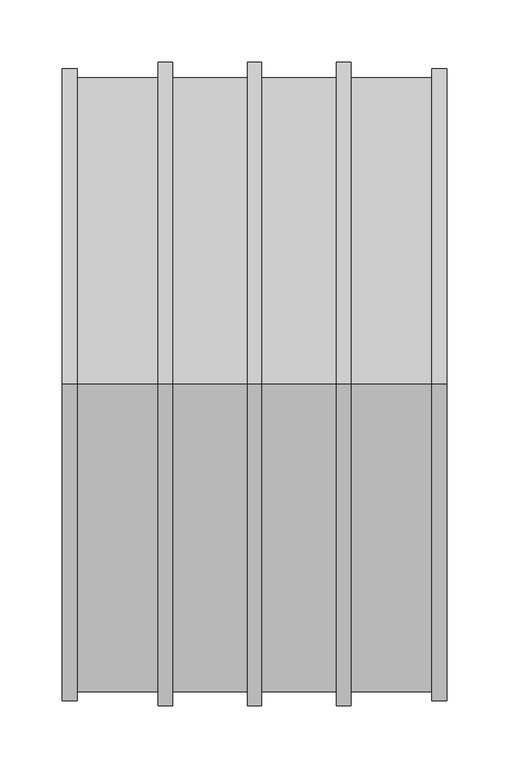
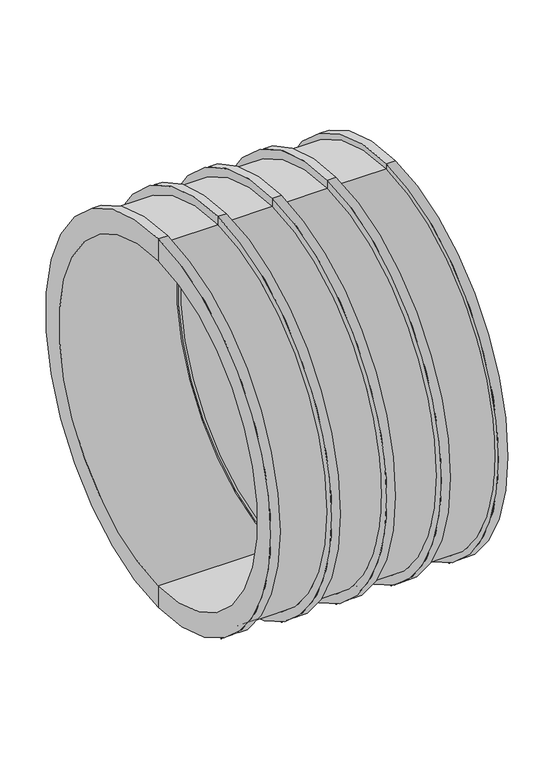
"""IFC4 building model written with IfcOpenShell, lengths in millimetres: pipe fitting geometry, Plumbing_Pipe-Fittings_Plasson_LightFit-Coupler_460103 : Plumbing_Pipe-Fittings_Plasson_LightFit-Coupler_460103."""

from ifc_helpers import new_model, si_unit, frame, origin, place, context, project, spatial, polyline, circle_curve, source, transform, mapped, element, save
from ifc_brep_helpers import plane_surface, cylinder_surface, revolved_surface, advanced_brep


def pipe_fitting_78b5cd10(model_context):
    return source(origin(), model_context, "Body", "AdvancedBrep", [
        advanced_brep(
        [(-1.5, 0.0, -225.0), (-1.5, 0.0, 225.0), (-155.0, 0.0, 225.0), (-155.0, 0.0, -225.0), (-1.5, 0.0, -222.0), (-1.5, 0.0, 222.0), (1.5, 0.0, -222.0), (1.5, 0.0, 222.0), (1.5, 0.0, -225.0), (1.5, 0.0, 225.0), (155.0, 0.0, -225.0), (155.0, 0.0, 225.0), (155.0, 0.0, -255.0), (155.0, 0.0, 255.0), (143.0, 0.0, -255.0), (143.0, 0.0, 255.0), (143.0, 0.0, -247.6666667), (143.0, 0.0, 247.6666667), (77.5, 0.0, -259.0), (77.5, 0.0, 259.0), (77.5, 0.0, 247.6666667), (77.5, 0.0, -247.6666667), (-143.0, 0.0, -247.6666667), (-143.0, 0.0, 247.6666667), (-77.5, 0.0, 247.6666667), (-77.5, 0.0, -247.6666667), (-143.0, 0.0, -255.0), (-143.0, 0.0, 255.0), (-155.0, 0.0, -255.0), (-155.0, 0.0, 255.0), (66.1666667, 0.0, -259.0), (66.1666667, 0.0, 259.0), (66.1666667, 0.0, -247.6666667), (66.1666667, 0.0, 247.6666667), (5.6666667, 0.0, -247.6666667), (5.6666667, 0.0, 247.6666667), (5.6666667, 0.0, -259.0), (5.6666667, 0.0, 259.0), (-5.6666667, 0.0, -259.0), (-5.6666667, 0.0, 259.0), (-5.6666667, 0.0, -247.6666667), (-5.6666667, 0.0, 247.6666667), (-66.1666667, 0.0, -247.6666667), (-66.1666667, 0.0, 247.6666667), (-66.1666667, 0.0, -259.0), (-66.1666667, 0.0, 259.0), (-77.5, 0.0, -259.0), (-77.5, 0.0, 259.0)],
        [
            (0, 1, circle_curve(frame((-1.5, 0.0, 0.0), z_axis=(1.0, 0.0, 0.0), x_axis=(0.0, 0.0, 1.0)), 225.0)),
            (1, 2),
            (2, 3, circle_curve(frame((-155.0, 0.0, 0.0), z_axis=(-1.0, 0.0, 0.0), x_axis=(0.0, 0.0, 1.0)), 225.0)),
            (3, 0),
            (1, 0, circle_curve(frame((-1.5, 0.0, 0.0), z_axis=(1.0, 0.0, 0.0), x_axis=(0.0, 0.0, 1.0)), 225.0)),
            (3, 2, circle_curve(frame((-155.0, 0.0, 0.0), z_axis=(-1.0, 0.0, 0.0), x_axis=(0.0, 0.0, 1.0)), 225.0)),
            (4, 5, circle_curve(frame((-1.5, 0.0, 0.0), z_axis=(1.0, 0.0, 0.0), x_axis=(0.0, 0.0, 1.0)), 222.0)),
            (5, 1),
            (0, 4),
            (5, 4, circle_curve(frame((-1.5, 0.0, 0.0), z_axis=(1.0, 0.0, 0.0), x_axis=(0.0, 0.0, 1.0)), 222.0)),
            (6, 7, circle_curve(frame((1.5, 0.0, 0.0), z_axis=(1.0, 0.0, 0.0), x_axis=(0.0, 0.0, 1.0)), 222.0)),
            (7, 5),
            (4, 6),
            (7, 6, circle_curve(frame((1.5, 0.0, 0.0), z_axis=(1.0, 0.0, 0.0), x_axis=(0.0, 0.0, 1.0)), 222.0)),
            (8, 9, circle_curve(frame((1.5, 0.0, 0.0), z_axis=(1.0, 0.0, 0.0), x_axis=(0.0, 0.0, 1.0)), 225.0)),
            (9, 7),
            (6, 8),
            (9, 8, circle_curve(frame((1.5, 0.0, 0.0), z_axis=(1.0, 0.0, 0.0), x_axis=(0.0, 0.0, 1.0)), 225.0)),
            (10, 11, circle_curve(frame((155.0, 0.0, 0.0), z_axis=(1.0, 0.0, 0.0), x_axis=(0.0, 0.0, 1.0)), 225.0)),
            (11, 9),
            (8, 10),
            (11, 10, circle_curve(frame((155.0, 0.0, 0.0), z_axis=(1.0, 0.0, 0.0), x_axis=(0.0, 0.0, 1.0)), 225.0)),
            (12, 13, circle_curve(frame((155.0, 0.0, 0.0), z_axis=(1.0, 0.0, 0.0), x_axis=(0.0, 0.0, 1.0)), 255.0)),
            (13, 11),
            (10, 12),
            (13, 12, circle_curve(frame((155.0, 0.0, 0.0), z_axis=(1.0, 0.0, 0.0), x_axis=(0.0, 0.0, 1.0)), 255.0)),
            (14, 15, circle_curve(frame((143.0, 0.0, 0.0), z_axis=(1.0, 0.0, 0.0), x_axis=(0.0, 0.0, 1.0)), 255.0)),
            (15, 13),
            (12, 14),
            (15, 14, circle_curve(frame((143.0, 0.0, 0.0), z_axis=(1.0, 0.0, 0.0), x_axis=(0.0, 0.0, 1.0)), 255.0)),
            (16, 17, circle_curve(frame((143.0, 0.0, 0.0), z_axis=(1.0, 0.0, 0.0), x_axis=(0.0, 0.0, 1.0)), 247.6666667)),
            (17, 15),
            (14, 16),
            (17, 16, circle_curve(frame((143.0, 0.0, 0.0), z_axis=(1.0, 0.0, 0.0), x_axis=(0.0, 0.0, 1.0)), 247.6666667)),
            (18, 19, circle_curve(frame((77.5, 0.0, 0.0), z_axis=(1.0, 0.0, 0.0), x_axis=(0.0, 0.0, 1.0)), 259.0)),
            (19, 20),
            (20, 21, circle_curve(frame((77.5, 0.0, 0.0), z_axis=(-1.0, 0.0, 0.0), x_axis=(0.0, 0.0, 1.0)), 247.6666667)),
            (21, 18),
            (19, 18, circle_curve(frame((77.5, 0.0, 0.0), z_axis=(1.0, 0.0, 0.0), x_axis=(0.0, 0.0, 1.0)), 259.0)),
            (21, 20, circle_curve(frame((77.5, 0.0, 0.0), z_axis=(-1.0, 0.0, 0.0), x_axis=(0.0, 0.0, 1.0)), 247.6666667)),
            (22, 23, circle_curve(frame((-143.0, 0.0, 0.0), z_axis=(1.0, 0.0, 0.0), x_axis=(0.0, 0.0, 1.0)), 247.6666667)),
            (23, 24),
            (24, 25, circle_curve(frame((-77.5, 0.0, 0.0), z_axis=(-1.0, 0.0, 0.0), x_axis=(0.0, 0.0, 1.0)), 247.6666667)),
            (25, 22),
            (23, 22, circle_curve(frame((-143.0, 0.0, 0.0), z_axis=(1.0, 0.0, 0.0), x_axis=(0.0, 0.0, 1.0)), 247.6666667)),
            (25, 24, circle_curve(frame((-77.5, 0.0, 0.0), z_axis=(-1.0, 0.0, 0.0), x_axis=(0.0, 0.0, 1.0)), 247.6666667)),
            (26, 27, circle_curve(frame((-143.0, 0.0, 0.0), z_axis=(1.0, 0.0, 0.0), x_axis=(0.0, 0.0, 1.0)), 255.0)),
            (27, 23),
            (22, 26),
            (27, 26, circle_curve(frame((-143.0, 0.0, 0.0), z_axis=(1.0, 0.0, 0.0), x_axis=(0.0, 0.0, 1.0)), 255.0)),
            (28, 29, circle_curve(frame((-155.0, 0.0, 0.0), z_axis=(1.0, 0.0, 0.0), x_axis=(0.0, 0.0, 1.0)), 255.0)),
            (29, 27),
            (26, 28),
            (29, 28, circle_curve(frame((-155.0, 0.0, 0.0), z_axis=(1.0, 0.0, 0.0), x_axis=(0.0, 0.0, 1.0)), 255.0)),
            (2, 29),
            (28, 3),
            (20, 17),
            (16, 21),
            (30, 31, circle_curve(frame((66.1666667, 0.0, 0.0), z_axis=(1.0, 0.0, 0.0), x_axis=(0.0, 0.0, 1.0)), 259.0)),
            (31, 19),
            (18, 30),
            (31, 30, circle_curve(frame((66.1666667, 0.0, 0.0), z_axis=(1.0, 0.0, 0.0), x_axis=(0.0, 0.0, 1.0)), 259.0)),
            (32, 33, circle_curve(frame((66.1666667, 0.0, 0.0), z_axis=(1.0, 0.0, 0.0), x_axis=(0.0, 0.0, 1.0)), 247.6666667)),
            (33, 31),
            (30, 32),
            (33, 32, circle_curve(frame((66.1666667, 0.0, 0.0), z_axis=(1.0, 0.0, 0.0), x_axis=(0.0, 0.0, 1.0)), 247.6666667)),
            (34, 35, circle_curve(frame((5.6666667, 0.0, 0.0), z_axis=(1.0, 0.0, 0.0), x_axis=(0.0, 0.0, 1.0)), 247.6666667)),
            (35, 33),
            (32, 34),
            (35, 34, circle_curve(frame((5.6666667, 0.0, 0.0), z_axis=(1.0, 0.0, 0.0), x_axis=(0.0, 0.0, 1.0)), 247.6666667)),
            (36, 37, circle_curve(frame((5.6666667, 0.0, 0.0), z_axis=(1.0, 0.0, 0.0), x_axis=(0.0, 0.0, 1.0)), 259.0)),
            (37, 35),
            (34, 36),
            (37, 36, circle_curve(frame((5.6666667, 0.0, 0.0), z_axis=(1.0, 0.0, 0.0), x_axis=(0.0, 0.0, 1.0)), 259.0)),
            (38, 39, circle_curve(frame((-5.6666667, 0.0, 0.0), z_axis=(1.0, 0.0, 0.0), x_axis=(0.0, 0.0, 1.0)), 259.0)),
            (39, 37),
            (36, 38),
            (39, 38, circle_curve(frame((-5.6666667, 0.0, 0.0), z_axis=(1.0, 0.0, 0.0), x_axis=(0.0, 0.0, 1.0)), 259.0)),
            (40, 41, circle_curve(frame((-5.6666667, 0.0, 0.0), z_axis=(1.0, 0.0, 0.0), x_axis=(0.0, 0.0, 1.0)), 247.6666667)),
            (41, 39),
            (38, 40),
            (41, 40, circle_curve(frame((-5.6666667, 0.0, 0.0), z_axis=(1.0, 0.0, 0.0), x_axis=(0.0, 0.0, 1.0)), 247.6666667)),
            (42, 43, circle_curve(frame((-66.1666667, 0.0, 0.0), z_axis=(1.0, 0.0, 0.0), x_axis=(0.0, 0.0, 1.0)), 247.6666667)),
            (43, 41),
            (40, 42),
            (43, 42, circle_curve(frame((-66.1666667, 0.0, 0.0), z_axis=(1.0, 0.0, 0.0), x_axis=(0.0, 0.0, 1.0)), 247.6666667)),
            (44, 45, circle_curve(frame((-66.1666667, 0.0, 0.0), z_axis=(1.0, 0.0, 0.0), x_axis=(0.0, 0.0, 1.0)), 259.0)),
            (45, 43),
            (42, 44),
            (45, 44, circle_curve(frame((-66.1666667, 0.0, 0.0), z_axis=(1.0, 0.0, 0.0), x_axis=(0.0, 0.0, 1.0)), 259.0)),
            (46, 47, circle_curve(frame((-77.5, 0.0, 0.0), z_axis=(1.0, 0.0, 0.0), x_axis=(0.0, 0.0, 1.0)), 259.0)),
            (47, 45),
            (44, 46),
            (47, 46, circle_curve(frame((-77.5, 0.0, 0.0), z_axis=(1.0, 0.0, 0.0), x_axis=(0.0, 0.0, 1.0)), 259.0)),
            (24, 47),
            (46, 25),
        ],
        [
            revolved_surface(polyline([(-155.0, 0.0, 225.0), (-1.5, 0.0, 225.0)]), (-155.0, 0.0, 0.0), (-1.0, 0.0, 0.0)),
            plane_surface(frame((-1.5, 0.0, 0.0), z_axis=(-1.0, 0.0, 0.0), x_axis=(0.0, 0.0, 1.0))),
            revolved_surface(polyline([(-1.5, 0.0, 222.0), (1.5, 0.0, 222.0)]), (-155.0, 0.0, 0.0), (-1.0, 0.0, 0.0)),
            plane_surface(frame((1.5, 0.0, 0.0), z_axis=(1.0, 0.0, 0.0), x_axis=(0.0, 0.0, 1.0))),
            revolved_surface(polyline([(1.5, 0.0, 225.0), (155.0, 0.0, 225.0)]), (-155.0, 0.0, 0.0), (-1.0, 0.0, 0.0)),
            plane_surface(frame((155.0, 0.0, 0.0), z_axis=(1.0, 0.0, 0.0), x_axis=(0.0, 0.0, 1.0))),
            cylinder_surface(frame((-155.0, 0.0, 0.0), z_axis=(-1.0, 0.0, 0.0), x_axis=(0.0, 0.0, 1.0)), 255.0),
            plane_surface(frame((143.0, 0.0, 0.0), z_axis=(-1.0, 0.0, 0.0), x_axis=(0.0, 0.0, 1.0))),
            plane_surface(frame((77.5, 0.0, 0.0), z_axis=(1.0, 0.0, 0.0), x_axis=(0.0, 0.0, 1.0))),
            cylinder_surface(frame((-155.0, 0.0, 0.0), z_axis=(-1.0, 0.0, 0.0), x_axis=(0.0, 0.0, 1.0)), 247.6666667),
            plane_surface(frame((-143.0, 0.0, 0.0), z_axis=(1.0, 0.0, 0.0), x_axis=(0.0, 0.0, 1.0))),
            plane_surface(frame((-155.0, 0.0, 0.0), z_axis=(-1.0, 0.0, 0.0), x_axis=(0.0, 0.0, 1.0))),
            cylinder_surface(frame((-155.0, 0.0, 0.0), z_axis=(-1.0, 0.0, 0.0), x_axis=(0.0, 0.0, 1.0)), 259.0),
            plane_surface(frame((66.1666667, 0.0, 0.0), z_axis=(-1.0, 0.0, 0.0), x_axis=(0.0, 0.0, 1.0))),
            plane_surface(frame((5.6666667, 0.0, 0.0), z_axis=(1.0, 0.0, 0.0), x_axis=(0.0, 0.0, 1.0))),
            plane_surface(frame((-5.6666667, 0.0, 0.0), z_axis=(-1.0, 0.0, 0.0), x_axis=(0.0, 0.0, 1.0))),
            plane_surface(frame((-66.1666667, 0.0, 0.0), z_axis=(1.0, 0.0, 0.0), x_axis=(0.0, 0.0, 1.0))),
            plane_surface(frame((-77.5, 0.0, 0.0), z_axis=(-1.0, 0.0, 0.0), x_axis=(0.0, 0.0, 1.0))),
        ],
        [
            (0, [[1, 2, 3, 4]]),
            (0, [[5, -4, 6, -2]]),
            (1, [[7, 8, -1, 9]]),
            (1, [[10, -9, -5, -8]]),
            (2, [[11, 12, -7, 13]]),
            (2, [[14, -13, -10, -12]]),
            (3, [[15, 16, -11, 17]]),
            (3, [[18, -17, -14, -16]]),
            (4, [[19, 20, -15, 21]]),
            (4, [[22, -21, -18, -20]]),
            (5, [[23, 24, -19, 25]]),
            (5, [[26, -25, -22, -24]]),
            (6, [[27, 28, -23, 29]]),
            (6, [[30, -29, -26, -28]]),
            (7, [[31, 32, -27, 33]]),
            (7, [[34, -33, -30, -32]]),
            (8, [[35, 36, 37, 38]]),
            (8, [[39, -38, 40, -36]]),
            (9, [[41, 42, 43, 44]]),
            (9, [[45, -44, 46, -42]]),
            (10, [[47, 48, -41, 49]]),
            (10, [[50, -49, -45, -48]]),
            (6, [[51, 52, -47, 53]]),
            (6, [[54, -53, -50, -52]]),
            (11, [[-3, 55, -51, 56]]),
            (11, [[-6, -56, -54, -55]]),
            (9, [[-37, 57, -31, 58]]),
            (9, [[-40, -58, -34, -57]]),
            (12, [[59, 60, -35, 61]]),
            (12, [[62, -61, -39, -60]]),
            (13, [[63, 64, -59, 65]]),
            (13, [[66, -65, -62, -64]]),
            (9, [[67, 68, -63, 69]]),
            (9, [[70, -69, -66, -68]]),
            (14, [[71, 72, -67, 73]]),
            (14, [[74, -73, -70, -72]]),
            (12, [[75, 76, -71, 77]]),
            (12, [[78, -77, -74, -76]]),
            (15, [[79, 80, -75, 81]]),
            (15, [[82, -81, -78, -80]]),
            (9, [[83, 84, -79, 85]]),
            (9, [[86, -85, -82, -84]]),
            (16, [[87, 88, -83, 89]]),
            (16, [[90, -89, -86, -88]]),
            (12, [[91, 92, -87, 93]]),
            (12, [[94, -93, -90, -92]]),
            (17, [[-43, 95, -91, 96]]),
            (17, [[-46, -96, -94, -95]]),
        ],
    ),
    ])


if __name__ == "__main__":
    model = new_model("IFC4")
    model_context = context("Model", 3, world=origin())
    ifc_project = project(units=[si_unit("LENGTHUNIT", "METRE", prefix="MILLI")], contexts=[model_context])
    site = spatial("IfcSite", under=ifc_project)
    building = spatial("IfcBuilding", under=site)
    placement = place(None, origin())
    pipe_fitting_shape = pipe_fitting_78b5cd10(model_context)
    element("IfcPipeFitting", 1, ObjectType="Plumbing_Pipe-Fittings_Plasson_LightFit-Coupler_460103 : Plumbing_Pipe-Fittings_Plasson_LightFit-Coupler_460103", at=placement, inside=building, context=model_context, shape_type="MappedRepresentation", body=[
        mapped(pipe_fitting_shape, transform((0.0, 0.0, 0.0), x_axis=(1.0, 0.0, 0.0), y_axis=(0.0, 1.0, 0.0), z_axis=(0.0, 0.0, 1.0))),
    ])
    save(model, "model.ifc")
